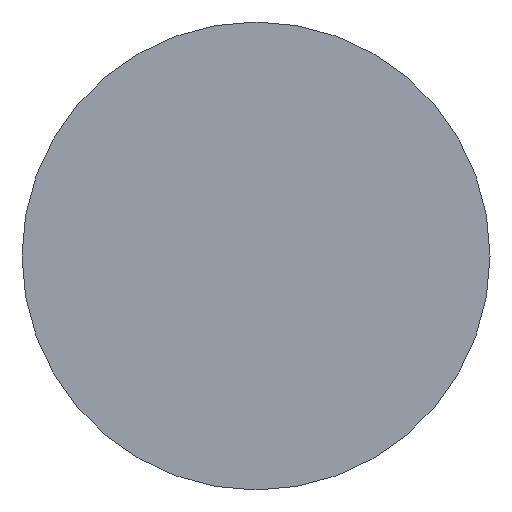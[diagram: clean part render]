
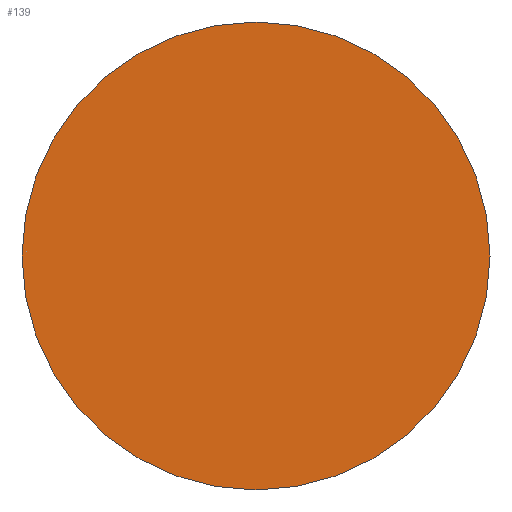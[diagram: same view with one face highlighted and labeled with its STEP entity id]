
A CAD part, front view. The second image highlights one B-rep face of the part: STEP entity #139.
In plain terms, the highlighted planar face has unit normal (0, -1, 0).
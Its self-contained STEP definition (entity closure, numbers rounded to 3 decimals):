
#31 = CYLINDRICAL_SURFACE('',#32,2.85);
#32 = AXIS2_PLACEMENT_3D('',#33,#34,#35);
#33 = CARTESIAN_POINT('',(14.,6.85,130.));
#34 = DIRECTION('',(0.,1.,0.));
#35 = DIRECTION('',(0.,0.,1.));
#56 = VERTEX_POINT('',#57);
#57 = CARTESIAN_POINT('',(14.,6.85,132.85));
#77 = EDGE_CURVE('',#56,#56,#78,.T.);
#78 = SURFACE_CURVE('',#79,(#84,#91),.PCURVE_S1.);
#79 = CIRCLE('',#80,2.85);
#80 = AXIS2_PLACEMENT_3D('',#81,#82,#83);
#81 = CARTESIAN_POINT('',(14.,6.85,130.));
#82 = DIRECTION('',(0.,1.,0.));
#83 = DIRECTION('',(0.,0.,1.));
#84 = PCURVE('',#31,#85);
#85 = DEFINITIONAL_REPRESENTATION('',(#86),#90);
#86 = LINE('',#87,#88);
#87 = CARTESIAN_POINT('',(0.,0.));
#88 = VECTOR('',#89,1.);
#89 = DIRECTION('',(1.,0.));
#90 = ( GEOMETRIC_REPRESENTATION_CONTEXT(2) 
PARAMETRIC_REPRESENTATION_CONTEXT() REPRESENTATION_CONTEXT('2D SPACE',''
  ) );
#91 = PCURVE('',#92,#97);
#92 = PLANE('',#93);
#93 = AXIS2_PLACEMENT_3D('',#94,#95,#96);
#94 = CARTESIAN_POINT('',(14.,6.85,130.));
#95 = DIRECTION('',(0.,1.,0.));
#96 = DIRECTION('',(0.,0.,1.));
#97 = DEFINITIONAL_REPRESENTATION('',(#98),#102);
#98 = CIRCLE('',#99,2.85);
#99 = AXIS2_PLACEMENT_2D('',#100,#101);
#100 = CARTESIAN_POINT('',(0.,0.));
#101 = DIRECTION('',(1.,0.));
#102 = ( GEOMETRIC_REPRESENTATION_CONTEXT(2) 
PARAMETRIC_REPRESENTATION_CONTEXT() REPRESENTATION_CONTEXT('2D SPACE',''
  ) );
#139 = ADVANCED_FACE('',(#140),#92,.F.);
#140 = FACE_BOUND('',#141,.T.);
#141 = EDGE_LOOP('',(#142));
#142 = ORIENTED_EDGE('',*,*,#77,.F.);
